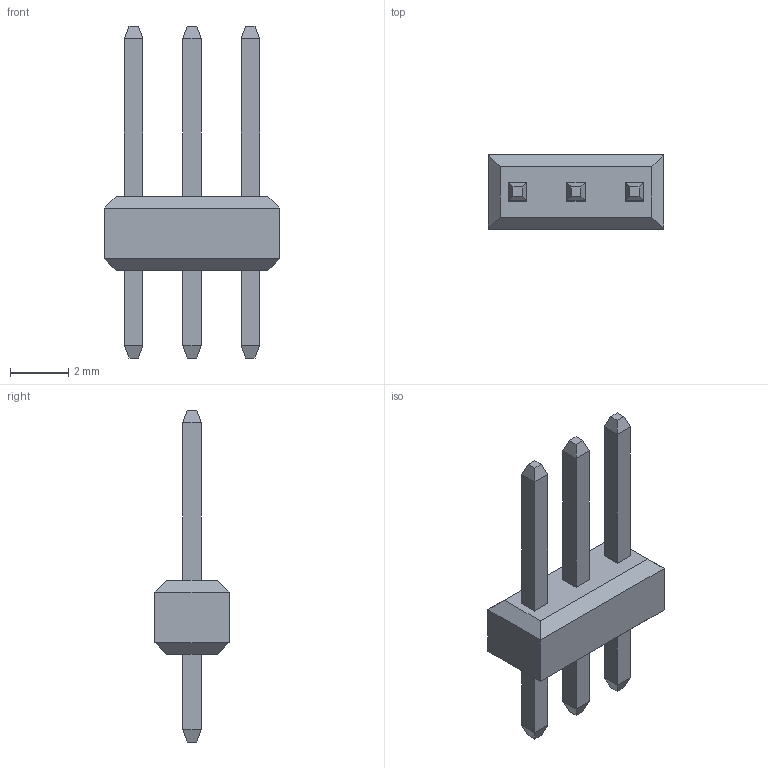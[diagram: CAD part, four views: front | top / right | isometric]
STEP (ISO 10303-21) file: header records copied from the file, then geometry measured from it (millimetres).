
FILE_DESCRIPTION(/* description */ (''),/* implementation_level */ '2;1');
FILE_NAME(/* name */ 'Z:/worker/forge-atf/tmp/job-2/347/output/89ef4000-3e55-4c2e-aea0-06940b445bf1/header_straight_1575585339348.stp',/* time_stamp */ '2019-12-05T22:35:42+00:00',/* author */ (''),/* organization */ (''),/* preprocessor_version */ 'ST-DEVELOPER v18',/* originating_system */ 'ASM',/* authorisation */ '');
FILE_SCHEMA (('AUTOMOTIVE_DESIGN { 1 0 10303 214 3 1 1 }'));
Length unit declared in the file: millimetre
Products named in the file (1): header_straight_1575585339348
Bounding box: 6 x 2.54 x 11.38 mm (x, y, z)
Volume: 46.6 mm3; surface area: 130.1 mm2
Topology: 1 solids, 1 shells, 68 faces, 148 edges, 88 vertices
Faces by surface type: plane 68
Entity records: 1876 total; most frequent: CARTESIAN_POINT 305, ORIENTED_EDGE 296, DIRECTION 286, LINE 148, VECTOR 148, EDGE_CURVE 148, VERTEX_POINT 88, EDGE_LOOP 74
